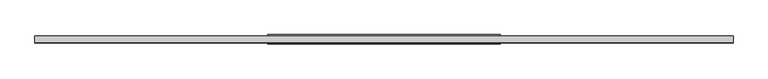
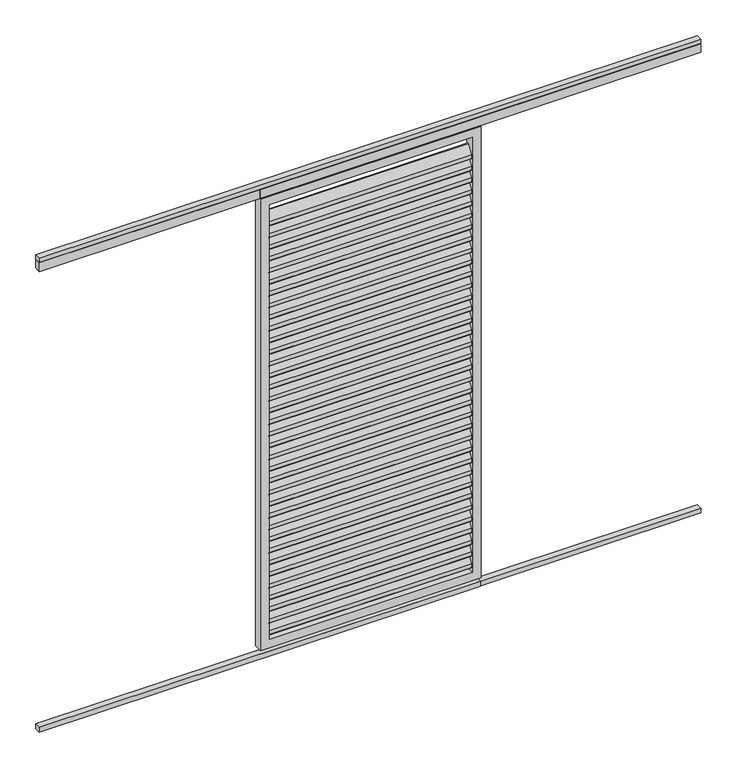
"""IFC4 building model written with IfcOpenShell, lengths in millimetres: proxy geometry, Renson_Algarve_Loggia_Paro_Privacy_Aluminium : Renson_Algarve_Loggia_Paro_Privacy_Aluminium."""

from ifc_helpers import new_model, si_unit, point, frame, frame_2d, origin, origin_with_axes, place, context, project, spatial, polyline, circle_curve, trimmed, segment, composite_curve, outline, extrude, source, transform, mapped, element, save


def generic_models_4c16ce6f(model_context):
    return source(origin(), model_context, "Body", "SweptSolid", [
        extrude(outline(composite_curve([segment(trimmed(circle_curve(frame_2d((12.6675921, 2117.7067127)), 3.0), [point((10.1515804, 2119.3406298))], [point((15.6675921, 2117.7067127))], False, "CARTESIAN"), True, "CONTINUOUS"), segment(polyline([(15.6675921, 2117.7067127), (15.6675921, 2099.3459282)]), True, "CONTINUOUS"), segment(trimmed(circle_curve(frame_2d((12.6675921, 2099.3459282)), 3.0), [point((15.6675921, 2099.3459282))], [point((15.1836038, 2097.7120111))], False, "CARTESIAN"), True, "CONTINUOUS"), segment(polyline([(15.1836038, 2097.7120111), (-8.8163962, 2060.7552519)]), True, "CONTINUOUS"), segment(trimmed(circle_curve(frame_2d((-11.3324079, 2062.389169)), 3.0), [point((-8.8163962, 2060.7552519))], [point((-14.3324079, 2062.389169))], False, "CARTESIAN"), True, "CONTINUOUS"), segment(polyline([(-14.3324079, 2062.389169), (-14.3324079, 2081.6385941), (10.1515804, 2119.3406298)]), True, "CONTINUOUS")], self_intersect=False)), frame((-460.0, 0.0, 0.0), z_axis=(1.0, 0.0, 0.0), x_axis=(0.0, 1.0, 0.0)), (0.0, 0.0, 1.0), 920.0),
        extrude(outline(composite_curve([segment(trimmed(circle_curve(frame_2d((12.6675921, 2061.7347145)), 3.0), [point((10.1515804, 2063.3686316))], [point((15.6675921, 2061.7347145))], False, "CARTESIAN"), True, "CONTINUOUS"), segment(polyline([(15.6675921, 2061.7347145), (15.6675921, 2043.3739299)]), True, "CONTINUOUS"), segment(trimmed(circle_curve(frame_2d((12.6675921, 2043.3739299)), 3.0), [point((15.6675921, 2043.3739299))], [point((15.1836038, 2041.7400128))], False, "CARTESIAN"), True, "CONTINUOUS"), segment(polyline([(15.1836038, 2041.7400128), (-8.8163962, 2004.7832537)]), True, "CONTINUOUS"), segment(trimmed(circle_curve(frame_2d((-11.3324079, 2006.4171708)), 3.0), [point((-8.8163962, 2004.7832537))], [point((-14.3324079, 2006.4171708))], False, "CARTESIAN"), True, "CONTINUOUS"), segment(polyline([(-14.3324079, 2006.4171708), (-14.3324079, 2025.6665958), (10.1515804, 2063.3686316)]), True, "CONTINUOUS")], self_intersect=False)), frame((-460.0, 0.0, 0.0), z_axis=(1.0, 0.0, 0.0), x_axis=(0.0, 1.0, 0.0)), (0.0, 0.0, 1.0), 920.0),
        extrude(outline(composite_curve([segment(trimmed(circle_curve(frame_2d((12.6675921, 2005.7627162)), 3.0), [point((10.1515804, 2007.3966333))], [point((15.6675921, 2005.7627162))], False, "CARTESIAN"), True, "CONTINUOUS"), segment(polyline([(15.6675921, 2005.7627162), (15.6675921, 1987.4019316)]), True, "CONTINUOUS"), segment(trimmed(circle_curve(frame_2d((12.6675921, 1987.4019316)), 3.0), [point((15.6675921, 1987.4019316))], [point((15.1836038, 1985.7680145))], False, "CARTESIAN"), True, "CONTINUOUS"), segment(polyline([(15.1836038, 1985.7680145), (-8.8163962, 1948.8112554)]), True, "CONTINUOUS"), segment(trimmed(circle_curve(frame_2d((-11.3324079, 1950.4451725)), 3.0), [point((-8.8163962, 1948.8112554))], [point((-14.3324079, 1950.4451725))], False, "CARTESIAN"), True, "CONTINUOUS"), segment(polyline([(-14.3324079, 1950.4451725), (-14.3324079, 1969.6945976), (10.1515804, 2007.3966333)]), True, "CONTINUOUS")], self_intersect=False)), frame((-460.0, 0.0, 0.0), z_axis=(1.0, 0.0, 0.0), x_axis=(0.0, 1.0, 0.0)), (0.0, 0.0, 1.0), 920.0),
        extrude(outline(composite_curve([segment(trimmed(circle_curve(frame_2d((12.6675921, 1949.790718)), 3.0), [point((10.1515804, 1951.4246351))], [point((15.6675921, 1949.790718))], False, "CARTESIAN"), True, "CONTINUOUS"), segment(polyline([(15.6675921, 1949.790718), (15.6675921, 1931.4299334)]), True, "CONTINUOUS"), segment(trimmed(circle_curve(frame_2d((12.6675921, 1931.4299334)), 3.0), [point((15.6675921, 1931.4299334))], [point((15.1836038, 1929.7960163))], False, "CARTESIAN"), True, "CONTINUOUS"), segment(polyline([(15.1836038, 1929.7960163), (-8.8163962, 1892.8392571)]), True, "CONTINUOUS"), segment(trimmed(circle_curve(frame_2d((-11.3324079, 1894.4731742)), 3.0), [point((-8.8163962, 1892.8392571))], [point((-14.3324079, 1894.4731742))], False, "CARTESIAN"), True, "CONTINUOUS"), segment(polyline([(-14.3324079, 1894.4731742), (-14.3324079, 1913.7225993), (10.1515804, 1951.4246351)]), True, "CONTINUOUS")], self_intersect=False)), frame((-460.0, 0.0, 0.0), z_axis=(1.0, 0.0, 0.0), x_axis=(0.0, 1.0, 0.0)), (0.0, 0.0, 1.0), 920.0),
        extrude(outline(composite_curve([segment(trimmed(circle_curve(frame_2d((12.6675921, 1893.8187197)), 3.0), [point((10.1515804, 1895.4526368))], [point((15.6675921, 1893.8187197))], False, "CARTESIAN"), True, "CONTINUOUS"), segment(polyline([(15.6675921, 1893.8187197), (15.6675921, 1875.4579351)]), True, "CONTINUOUS"), segment(trimmed(circle_curve(frame_2d((12.6675921, 1875.4579351)), 3.0), [point((15.6675921, 1875.4579351))], [point((15.1836038, 1873.824018))], False, "CARTESIAN"), True, "CONTINUOUS"), segment(polyline([(15.1836038, 1873.824018), (-8.8163962, 1836.8672589)]), True, "CONTINUOUS"), segment(trimmed(circle_curve(frame_2d((-11.3324079, 1838.501176)), 3.0), [point((-8.8163962, 1836.8672589))], [point((-14.3324079, 1838.501176))], False, "CARTESIAN"), True, "CONTINUOUS"), segment(polyline([(-14.3324079, 1838.501176), (-14.3324079, 1857.7506011), (10.1515804, 1895.4526368)]), True, "CONTINUOUS")], self_intersect=False)), frame((-460.0, 0.0, 0.0), z_axis=(1.0, 0.0, 0.0), x_axis=(0.0, 1.0, 0.0)), (0.0, 0.0, 1.0), 920.0),
        extrude(outline(composite_curve([segment(trimmed(circle_curve(frame_2d((12.6675921, 1837.8467214)), 3.0), [point((10.1515804, 1839.4806385))], [point((15.6675921, 1837.8467214))], False, "CARTESIAN"), True, "CONTINUOUS"), segment(polyline([(15.6675921, 1837.8467214), (15.6675921, 1819.4859368)]), True, "CONTINUOUS"), segment(trimmed(circle_curve(frame_2d((12.6675921, 1819.4859368)), 3.0), [point((15.6675921, 1819.4859368))], [point((15.1836038, 1817.8520197))], False, "CARTESIAN"), True, "CONTINUOUS"), segment(polyline([(15.1836038, 1817.8520197), (-8.8163962, 1780.8952606)]), True, "CONTINUOUS"), segment(trimmed(circle_curve(frame_2d((-11.3324079, 1782.5291777)), 3.0), [point((-8.8163962, 1780.8952606))], [point((-14.3324079, 1782.5291777))], False, "CARTESIAN"), True, "CONTINUOUS"), segment(polyline([(-14.3324079, 1782.5291777), (-14.3324079, 1801.7786028), (10.1515804, 1839.4806385)]), True, "CONTINUOUS")], self_intersect=False)), frame((-460.0, 0.0, 0.0), z_axis=(1.0, 0.0, 0.0), x_axis=(0.0, 1.0, 0.0)), (0.0, 0.0, 1.0), 920.0),
        extrude(outline(composite_curve([segment(trimmed(circle_curve(frame_2d((12.6675921, 1781.8747232)), 3.0), [point((10.1515804, 1783.5086403))], [point((15.6675921, 1781.8747232))], False, "CARTESIAN"), True, "CONTINUOUS"), segment(polyline([(15.6675921, 1781.8747232), (15.6675921, 1763.5139386)]), True, "CONTINUOUS"), segment(trimmed(circle_curve(frame_2d((12.6675921, 1763.5139386)), 3.0), [point((15.6675921, 1763.5139386))], [point((15.1836038, 1761.8800215))], False, "CARTESIAN"), True, "CONTINUOUS"), segment(polyline([(15.1836038, 1761.8800215), (-8.8163962, 1724.9232624)]), True, "CONTINUOUS"), segment(trimmed(circle_curve(frame_2d((-11.3324079, 1726.5571795)), 3.0), [point((-8.8163962, 1724.9232624))], [point((-14.3324079, 1726.5571795))], False, "CARTESIAN"), True, "CONTINUOUS"), segment(polyline([(-14.3324079, 1726.5571795), (-14.3324079, 1745.8066045), (10.1515804, 1783.5086403)]), True, "CONTINUOUS")], self_intersect=False)), frame((-460.0, 0.0, 0.0), z_axis=(1.0, 0.0, 0.0), x_axis=(0.0, 1.0, 0.0)), (0.0, 0.0, 1.0), 920.0),
        extrude(outline(composite_curve([segment(trimmed(circle_curve(frame_2d((12.6675921, 1725.9027249)), 3.0), [point((10.1515804, 1727.536642))], [point((15.6675921, 1725.9027249))], False, "CARTESIAN"), True, "CONTINUOUS"), segment(polyline([(15.6675921, 1725.9027249), (15.6675921, 1707.5419403)]), True, "CONTINUOUS"), segment(trimmed(circle_curve(frame_2d((12.6675921, 1707.5419403)), 3.0), [point((15.6675921, 1707.5419403))], [point((15.1836038, 1705.9080232))], False, "CARTESIAN"), True, "CONTINUOUS"), segment(polyline([(15.1836038, 1705.9080232), (-8.8163962, 1668.9512641)]), True, "CONTINUOUS"), segment(trimmed(circle_curve(frame_2d((-11.3324079, 1670.5851812)), 3.0), [point((-8.8163962, 1668.9512641))], [point((-14.3324079, 1670.5851812))], False, "CARTESIAN"), True, "CONTINUOUS"), segment(polyline([(-14.3324079, 1670.5851812), (-14.3324079, 1689.8346063), (10.1515804, 1727.536642)]), True, "CONTINUOUS")], self_intersect=False)), frame((-460.0, 0.0, 0.0), z_axis=(1.0, 0.0, 0.0), x_axis=(0.0, 1.0, 0.0)), (0.0, 0.0, 1.0), 920.0),
        extrude(outline(composite_curve([segment(trimmed(circle_curve(frame_2d((12.6675921, 1669.9307267)), 3.0), [point((10.1515804, 1671.5646438))], [point((15.6675921, 1669.9307267))], False, "CARTESIAN"), True, "CONTINUOUS"), segment(polyline([(15.6675921, 1669.9307267), (15.6675921, 1651.5699421)]), True, "CONTINUOUS"), segment(trimmed(circle_curve(frame_2d((12.6675921, 1651.5699421)), 3.0), [point((15.6675921, 1651.5699421))], [point((15.1836038, 1649.936025))], False, "CARTESIAN"), True, "CONTINUOUS"), segment(polyline([(15.1836038, 1649.936025), (-8.8163962, 1612.9792658)]), True, "CONTINUOUS"), segment(trimmed(circle_curve(frame_2d((-11.3324079, 1614.6131829)), 3.0), [point((-8.8163962, 1612.9792658))], [point((-14.3324079, 1614.6131829))], False, "CARTESIAN"), True, "CONTINUOUS"), segment(polyline([(-14.3324079, 1614.6131829), (-14.3324079, 1633.862608), (10.1515804, 1671.5646438)]), True, "CONTINUOUS")], self_intersect=False)), frame((-460.0, 0.0, 0.0), z_axis=(1.0, 0.0, 0.0), x_axis=(0.0, 1.0, 0.0)), (0.0, 0.0, 1.0), 920.0),
        extrude(outline(composite_curve([segment(trimmed(circle_curve(frame_2d((12.6675921, 1613.9587284)), 3.0), [point((10.1515804, 1615.5926455))], [point((15.6675921, 1613.9587284))], False, "CARTESIAN"), True, "CONTINUOUS"), segment(polyline([(15.6675921, 1613.9587284), (15.6675921, 1595.5979438)]), True, "CONTINUOUS"), segment(trimmed(circle_curve(frame_2d((12.6675921, 1595.5979438)), 3.0), [point((15.6675921, 1595.5979438))], [point((15.1836038, 1593.9640267))], False, "CARTESIAN"), True, "CONTINUOUS"), segment(polyline([(15.1836038, 1593.9640267), (-8.8163962, 1557.0072676)]), True, "CONTINUOUS"), segment(trimmed(circle_curve(frame_2d((-11.3324079, 1558.6411847)), 3.0), [point((-8.8163962, 1557.0072676))], [point((-14.3324079, 1558.6411847))], False, "CARTESIAN"), True, "CONTINUOUS"), segment(polyline([(-14.3324079, 1558.6411847), (-14.3324079, 1577.8906097), (10.1515804, 1615.5926455)]), True, "CONTINUOUS")], self_intersect=False)), frame((-460.0, 0.0, 0.0), z_axis=(1.0, 0.0, 0.0), x_axis=(0.0, 1.0, 0.0)), (0.0, 0.0, 1.0), 920.0),
        extrude(outline(composite_curve([segment(trimmed(circle_curve(frame_2d((12.6675921, 1557.9867301)), 3.0), [point((10.1515804, 1559.6206472))], [point((15.6675921, 1557.9867301))], False, "CARTESIAN"), True, "CONTINUOUS"), segment(polyline([(15.6675921, 1557.9867301), (15.6675921, 1539.6259455)]), True, "CONTINUOUS"), segment(trimmed(circle_curve(frame_2d((12.6675921, 1539.6259455)), 3.0), [point((15.6675921, 1539.6259455))], [point((15.1836038, 1537.9920284))], False, "CARTESIAN"), True, "CONTINUOUS"), segment(polyline([(15.1836038, 1537.9920284), (-8.8163962, 1501.0352693)]), True, "CONTINUOUS"), segment(trimmed(circle_curve(frame_2d((-11.3324079, 1502.6691864)), 3.0), [point((-8.8163962, 1501.0352693))], [point((-14.3324079, 1502.6691864))], False, "CARTESIAN"), True, "CONTINUOUS"), segment(polyline([(-14.3324079, 1502.6691864), (-14.3324079, 1521.9186115), (10.1515804, 1559.6206472)]), True, "CONTINUOUS")], self_intersect=False)), frame((-460.0, 0.0, 0.0), z_axis=(1.0, 0.0, 0.0), x_axis=(0.0, 1.0, 0.0)), (0.0, 0.0, 1.0), 920.0),
        extrude(outline(composite_curve([segment(trimmed(circle_curve(frame_2d((12.6675921, 1502.0147319)), 3.0), [point((10.1515804, 1503.648649))], [point((15.6675921, 1502.0147319))], False, "CARTESIAN"), True, "CONTINUOUS"), segment(polyline([(15.6675921, 1502.0147319), (15.6675921, 1483.6539473)]), True, "CONTINUOUS"), segment(trimmed(circle_curve(frame_2d((12.6675921, 1483.6539473)), 3.0), [point((15.6675921, 1483.6539473))], [point((15.1836038, 1482.0200302))], False, "CARTESIAN"), True, "CONTINUOUS"), segment(polyline([(15.1836038, 1482.0200302), (-8.8163962, 1445.063271)]), True, "CONTINUOUS"), segment(trimmed(circle_curve(frame_2d((-11.3324079, 1446.6971881)), 3.0), [point((-8.8163962, 1445.063271))], [point((-14.3324079, 1446.6971881))], False, "CARTESIAN"), True, "CONTINUOUS"), segment(polyline([(-14.3324079, 1446.6971881), (-14.3324079, 1465.9466132), (10.1515804, 1503.648649)]), True, "CONTINUOUS")], self_intersect=False)), frame((-460.0, 0.0, 0.0), z_axis=(1.0, 0.0, 0.0), x_axis=(0.0, 1.0, 0.0)), (0.0, 0.0, 1.0), 920.0),
        extrude(outline(composite_curve([segment(trimmed(circle_curve(frame_2d((12.6675921, 1446.0427336)), 3.0), [point((10.1515804, 1447.6766507))], [point((15.6675921, 1446.0427336))], False, "CARTESIAN"), True, "CONTINUOUS"), segment(polyline([(15.6675921, 1446.0427336), (15.6675921, 1427.681949)]), True, "CONTINUOUS"), segment(trimmed(circle_curve(frame_2d((12.6675921, 1427.681949)), 3.0), [point((15.6675921, 1427.681949))], [point((15.1836038, 1426.0480319))], False, "CARTESIAN"), True, "CONTINUOUS"), segment(polyline([(15.1836038, 1426.0480319), (-8.8163962, 1389.0912728)]), True, "CONTINUOUS"), segment(trimmed(circle_curve(frame_2d((-11.3324079, 1390.7251899)), 3.0), [point((-8.8163962, 1389.0912728))], [point((-14.3324079, 1390.7251899))], False, "CARTESIAN"), True, "CONTINUOUS"), segment(polyline([(-14.3324079, 1390.7251899), (-14.3324079, 1409.974615), (10.1515804, 1447.6766507)]), True, "CONTINUOUS")], self_intersect=False)), frame((-460.0, 0.0, 0.0), z_axis=(1.0, 0.0, 0.0), x_axis=(0.0, 1.0, 0.0)), (0.0, 0.0, 1.0), 920.0),
        extrude(outline(composite_curve([segment(trimmed(circle_curve(frame_2d((12.6675921, 1390.0707353)), 3.0), [point((10.1515804, 1391.7046525))], [point((15.6675921, 1390.0707353))], False, "CARTESIAN"), True, "CONTINUOUS"), segment(polyline([(15.6675921, 1390.0707353), (15.6675921, 1371.7099508)]), True, "CONTINUOUS"), segment(trimmed(circle_curve(frame_2d((12.6675921, 1371.7099508)), 3.0), [point((15.6675921, 1371.7099508))], [point((15.1836038, 1370.0760337))], False, "CARTESIAN"), True, "CONTINUOUS"), segment(polyline([(15.1836038, 1370.0760337), (-8.8163962, 1333.1192745)]), True, "CONTINUOUS"), segment(trimmed(circle_curve(frame_2d((-11.3324079, 1334.7531916)), 3.0), [point((-8.8163962, 1333.1192745))], [point((-14.3324079, 1334.7531916))], False, "CARTESIAN"), True, "CONTINUOUS"), segment(polyline([(-14.3324079, 1334.7531916), (-14.3324079, 1354.0026167), (10.1515804, 1391.7046525)]), True, "CONTINUOUS")], self_intersect=False)), frame((-460.0, 0.0, 0.0), z_axis=(1.0, 0.0, 0.0), x_axis=(0.0, 1.0, 0.0)), (0.0, 0.0, 1.0), 920.0),
        extrude(outline(composite_curve([segment(trimmed(circle_curve(frame_2d((12.6675921, 1334.0987371)), 3.0), [point((10.1515804, 1335.7326542))], [point((15.6675921, 1334.0987371))], False, "CARTESIAN"), True, "CONTINUOUS"), segment(polyline([(15.6675921, 1334.0987371), (15.6675921, 1315.7379525)]), True, "CONTINUOUS"), segment(trimmed(circle_curve(frame_2d((12.6675921, 1315.7379525)), 3.0), [point((15.6675921, 1315.7379525))], [point((15.1836038, 1314.1040354))], False, "CARTESIAN"), True, "CONTINUOUS"), segment(polyline([(15.1836038, 1314.1040354), (-8.8163962, 1277.1472763)]), True, "CONTINUOUS"), segment(trimmed(circle_curve(frame_2d((-11.3324079, 1278.7811934)), 3.0), [point((-8.8163962, 1277.1472763))], [point((-14.3324079, 1278.7811934))], False, "CARTESIAN"), True, "CONTINUOUS"), segment(polyline([(-14.3324079, 1278.7811934), (-14.3324079, 1298.0306184), (10.1515804, 1335.7326542)]), True, "CONTINUOUS")], self_intersect=False)), frame((-460.0, 0.0, 0.0), z_axis=(1.0, 0.0, 0.0), x_axis=(0.0, 1.0, 0.0)), (0.0, 0.0, 1.0), 920.0),
        extrude(outline(composite_curve([segment(trimmed(circle_curve(frame_2d((12.6675921, 1278.1267388)), 3.0), [point((10.1515804, 1279.7606559))], [point((15.6675921, 1278.1267388))], False, "CARTESIAN"), True, "CONTINUOUS"), segment(polyline([(15.6675921, 1278.1267388), (15.6675921, 1259.7659542)]), True, "CONTINUOUS"), segment(trimmed(circle_curve(frame_2d((12.6675921, 1259.7659542)), 3.0), [point((15.6675921, 1259.7659542))], [point((15.1836038, 1258.1320371))], False, "CARTESIAN"), True, "CONTINUOUS"), segment(polyline([(15.1836038, 1258.1320371), (-8.8163962, 1221.175278)]), True, "CONTINUOUS"), segment(trimmed(circle_curve(frame_2d((-11.3324079, 1222.8091951)), 3.0), [point((-8.8163962, 1221.175278))], [point((-14.3324079, 1222.8091951))], False, "CARTESIAN"), True, "CONTINUOUS"), segment(polyline([(-14.3324079, 1222.8091951), (-14.3324079, 1242.0586202), (10.1515804, 1279.7606559)]), True, "CONTINUOUS")], self_intersect=False)), frame((-460.0, 0.0, 0.0), z_axis=(1.0, 0.0, 0.0), x_axis=(0.0, 1.0, 0.0)), (0.0, 0.0, 1.0), 920.0),
        extrude(outline(composite_curve([segment(trimmed(circle_curve(frame_2d((12.6675921, 1222.1547406)), 3.0), [point((10.1515804, 1223.7886577))], [point((15.6675921, 1222.1547406))], False, "CARTESIAN"), True, "CONTINUOUS"), segment(polyline([(15.6675921, 1222.1547406), (15.6675921, 1203.793956)]), True, "CONTINUOUS"), segment(trimmed(circle_curve(frame_2d((12.6675921, 1203.793956)), 3.0), [point((15.6675921, 1203.793956))], [point((15.1836038, 1202.1600389))], False, "CARTESIAN"), True, "CONTINUOUS"), segment(polyline([(15.1836038, 1202.1600389), (-8.8163962, 1165.2032797)]), True, "CONTINUOUS"), segment(trimmed(circle_curve(frame_2d((-11.3324079, 1166.8371968)), 3.0), [point((-8.8163962, 1165.2032797))], [point((-14.3324079, 1166.8371968))], False, "CARTESIAN"), True, "CONTINUOUS"), segment(polyline([(-14.3324079, 1166.8371968), (-14.3324079, 1186.0866219), (10.1515804, 1223.7886577)]), True, "CONTINUOUS")], self_intersect=False)), frame((-460.0, 0.0, 0.0), z_axis=(1.0, 0.0, 0.0), x_axis=(0.0, 1.0, 0.0)), (0.0, 0.0, 1.0), 920.0),
        extrude(outline(composite_curve([segment(trimmed(circle_curve(frame_2d((12.6675921, 1166.1827423)), 3.0), [point((10.1515804, 1167.8166594))], [point((15.6675921, 1166.1827423))], False, "CARTESIAN"), True, "CONTINUOUS"), segment(polyline([(15.6675921, 1166.1827423), (15.6675921, 1147.8219577)]), True, "CONTINUOUS"), segment(trimmed(circle_curve(frame_2d((12.6675921, 1147.8219577)), 3.0), [point((15.6675921, 1147.8219577))], [point((15.1836038, 1146.1880406))], False, "CARTESIAN"), True, "CONTINUOUS"), segment(polyline([(15.1836038, 1146.1880406), (-8.8163962, 1109.2312815)]), True, "CONTINUOUS"), segment(trimmed(circle_curve(frame_2d((-11.3324079, 1110.8651986)), 3.0), [point((-8.8163962, 1109.2312815))], [point((-14.3324079, 1110.8651986))], False, "CARTESIAN"), True, "CONTINUOUS"), segment(polyline([(-14.3324079, 1110.8651986), (-14.3324079, 1130.1146237), (10.1515804, 1167.8166594)]), True, "CONTINUOUS")], self_intersect=False)), frame((-460.0, 0.0, 0.0), z_axis=(1.0, 0.0, 0.0), x_axis=(0.0, 1.0, 0.0)), (0.0, 0.0, 1.0), 920.0),
        extrude(outline(composite_curve([segment(trimmed(circle_curve(frame_2d((12.6675921, 1110.210744)), 3.0), [point((10.1515804, 1111.8446611))], [point((15.6675921, 1110.210744))], False, "CARTESIAN"), True, "CONTINUOUS"), segment(polyline([(15.6675921, 1110.210744), (15.6675921, 1091.8499595)]), True, "CONTINUOUS"), segment(trimmed(circle_curve(frame_2d((12.6675921, 1091.8499595)), 3.0), [point((15.6675921, 1091.8499595))], [point((15.1836038, 1090.2160423))], False, "CARTESIAN"), True, "CONTINUOUS"), segment(polyline([(15.1836038, 1090.2160423), (-8.8163962, 1053.2592832)]), True, "CONTINUOUS"), segment(trimmed(circle_curve(frame_2d((-11.3324079, 1054.8932003)), 3.0), [point((-8.8163962, 1053.2592832))], [point((-14.3324079, 1054.8932003))], False, "CARTESIAN"), True, "CONTINUOUS"), segment(polyline([(-14.3324079, 1054.8932003), (-14.3324079, 1074.1426254), (10.1515804, 1111.8446611)]), True, "CONTINUOUS")], self_intersect=False)), frame((-460.0, 0.0, 0.0), z_axis=(1.0, 0.0, 0.0), x_axis=(0.0, 1.0, 0.0)), (0.0, 0.0, 1.0), 920.0),
        extrude(outline(composite_curve([segment(trimmed(circle_curve(frame_2d((12.6675921, 1054.2387458)), 3.0), [point((10.1515804, 1055.8726629))], [point((15.6675921, 1054.2387458))], False, "CARTESIAN"), True, "CONTINUOUS"), segment(polyline([(15.6675921, 1054.2387458), (15.6675921, 1035.8779612)]), True, "CONTINUOUS"), segment(trimmed(circle_curve(frame_2d((12.6675921, 1035.8779612)), 3.0), [point((15.6675921, 1035.8779612))], [point((15.1836038, 1034.2440441))], False, "CARTESIAN"), True, "CONTINUOUS"), segment(polyline([(15.1836038, 1034.2440441), (-8.8163962, 997.287285)]), True, "CONTINUOUS"), segment(trimmed(circle_curve(frame_2d((-11.3324079, 998.9212021)), 3.0), [point((-8.8163962, 997.287285))], [point((-14.3324079, 998.9212021))], False, "CARTESIAN"), True, "CONTINUOUS"), segment(polyline([(-14.3324079, 998.9212021), (-14.3324079, 1018.1706271), (10.1515804, 1055.8726629)]), True, "CONTINUOUS")], self_intersect=False)), frame((-460.0, 0.0, 0.0), z_axis=(1.0, 0.0, 0.0), x_axis=(0.0, 1.0, 0.0)), (0.0, 0.0, 1.0), 920.0),
        extrude(outline(composite_curve([segment(trimmed(circle_curve(frame_2d((12.6675921, 998.2667475)), 3.0), [point((10.1515804, 999.9006646))], [point((15.6675921, 998.2667475))], False, "CARTESIAN"), True, "CONTINUOUS"), segment(polyline([(15.6675921, 998.2667475), (15.6675921, 979.9059629)]), True, "CONTINUOUS"), segment(trimmed(circle_curve(frame_2d((12.6675921, 979.9059629)), 3.0), [point((15.6675921, 979.9059629))], [point((15.1836038, 978.2720458))], False, "CARTESIAN"), True, "CONTINUOUS"), segment(polyline([(15.1836038, 978.2720458), (-8.8163962, 941.3152867)]), True, "CONTINUOUS"), segment(trimmed(circle_curve(frame_2d((-11.3324079, 942.9492038)), 3.0), [point((-8.8163962, 941.3152867))], [point((-14.3324079, 942.9492038))], False, "CARTESIAN"), True, "CONTINUOUS"), segment(polyline([(-14.3324079, 942.9492038), (-14.3324079, 962.1986289), (10.1515804, 999.9006646)]), True, "CONTINUOUS")], self_intersect=False)), frame((-460.0, 0.0, 0.0), z_axis=(1.0, 0.0, 0.0), x_axis=(0.0, 1.0, 0.0)), (0.0, 0.0, 1.0), 920.0),
        extrude(outline(composite_curve([segment(trimmed(circle_curve(frame_2d((12.6675921, 942.2947493)), 3.0), [point((10.1515804, 943.9286664))], [point((15.6675921, 942.2947493))], False, "CARTESIAN"), True, "CONTINUOUS"), segment(polyline([(15.6675921, 942.2947493), (15.6675921, 923.9339647)]), True, "CONTINUOUS"), segment(trimmed(circle_curve(frame_2d((12.6675921, 923.9339647)), 3.0), [point((15.6675921, 923.9339647))], [point((15.1836038, 922.3000476))], False, "CARTESIAN"), True, "CONTINUOUS"), segment(polyline([(15.1836038, 922.3000476), (-8.8163962, 885.3432884)]), True, "CONTINUOUS"), segment(trimmed(circle_curve(frame_2d((-11.3324079, 886.9772055)), 3.0), [point((-8.8163962, 885.3432884))], [point((-14.3324079, 886.9772055))], False, "CARTESIAN"), True, "CONTINUOUS"), segment(polyline([(-14.3324079, 886.9772055), (-14.3324079, 906.2266306), (10.1515804, 943.9286664)]), True, "CONTINUOUS")], self_intersect=False)), frame((-460.0, 0.0, 0.0), z_axis=(1.0, 0.0, 0.0), x_axis=(0.0, 1.0, 0.0)), (0.0, 0.0, 1.0), 920.0),
        extrude(outline(composite_curve([segment(trimmed(circle_curve(frame_2d((12.6675921, 886.322751)), 3.0), [point((10.1515804, 887.9566681))], [point((15.6675921, 886.322751))], False, "CARTESIAN"), True, "CONTINUOUS"), segment(polyline([(15.6675921, 886.322751), (15.6675921, 867.9619664)]), True, "CONTINUOUS"), segment(trimmed(circle_curve(frame_2d((12.6675921, 867.9619664)), 3.0), [point((15.6675921, 867.9619664))], [point((15.1836038, 866.3280493))], False, "CARTESIAN"), True, "CONTINUOUS"), segment(polyline([(15.1836038, 866.3280493), (-8.8163962, 829.3712902)]), True, "CONTINUOUS"), segment(trimmed(circle_curve(frame_2d((-11.3324079, 831.0052073)), 3.0), [point((-8.8163962, 829.3712902))], [point((-14.3324079, 831.0052073))], False, "CARTESIAN"), True, "CONTINUOUS"), segment(polyline([(-14.3324079, 831.0052073), (-14.3324079, 850.2546323), (10.1515804, 887.9566681)]), True, "CONTINUOUS")], self_intersect=False)), frame((-460.0, 0.0, 0.0), z_axis=(1.0, 0.0, 0.0), x_axis=(0.0, 1.0, 0.0)), (0.0, 0.0, 1.0), 920.0),
        extrude(outline(composite_curve([segment(trimmed(circle_curve(frame_2d((12.6675921, 830.3507527)), 3.0), [point((10.1515804, 831.9846698))], [point((15.6675921, 830.3507527))], False, "CARTESIAN"), True, "CONTINUOUS"), segment(polyline([(15.6675921, 830.3507527), (15.6675921, 811.9899681)]), True, "CONTINUOUS"), segment(trimmed(circle_curve(frame_2d((12.6675921, 811.9899681)), 3.0), [point((15.6675921, 811.9899681))], [point((15.1836038, 810.356051))], False, "CARTESIAN"), True, "CONTINUOUS"), segment(polyline([(15.1836038, 810.356051), (-8.8163962, 773.3992919)]), True, "CONTINUOUS"), segment(trimmed(circle_curve(frame_2d((-11.3324079, 775.033209)), 3.0), [point((-8.8163962, 773.3992919))], [point((-14.3324079, 775.033209))], False, "CARTESIAN"), True, "CONTINUOUS"), segment(polyline([(-14.3324079, 775.033209), (-14.3324079, 794.2826341), (10.1515804, 831.9846698)]), True, "CONTINUOUS")], self_intersect=False)), frame((-460.0, 0.0, 0.0), z_axis=(1.0, 0.0, 0.0), x_axis=(0.0, 1.0, 0.0)), (0.0, 0.0, 1.0), 920.0),
        extrude(outline(composite_curve([segment(trimmed(circle_curve(frame_2d((12.6675921, 774.3787545)), 3.0), [point((10.1515804, 776.0126716))], [point((15.6675921, 774.3787545))], False, "CARTESIAN"), True, "CONTINUOUS"), segment(polyline([(15.6675921, 774.3787545), (15.6675921, 756.0179699)]), True, "CONTINUOUS"), segment(trimmed(circle_curve(frame_2d((12.6675921, 756.0179699)), 3.0), [point((15.6675921, 756.0179699))], [point((15.1836038, 754.3840528))], False, "CARTESIAN"), True, "CONTINUOUS"), segment(polyline([(15.1836038, 754.3840528), (-8.8163962, 717.4272936)]), True, "CONTINUOUS"), segment(trimmed(circle_curve(frame_2d((-11.3324079, 719.0612108)), 3.0), [point((-8.8163962, 717.4272936))], [point((-14.3324079, 719.0612108))], False, "CARTESIAN"), True, "CONTINUOUS"), segment(polyline([(-14.3324079, 719.0612108), (-14.3324079, 738.3106358), (10.1515804, 776.0126716)]), True, "CONTINUOUS")], self_intersect=False)), frame((-460.0, 0.0, 0.0), z_axis=(1.0, 0.0, 0.0), x_axis=(0.0, 1.0, 0.0)), (0.0, 0.0, 1.0), 920.0),
        extrude(outline(composite_curve([segment(trimmed(circle_curve(frame_2d((12.6675921, 718.4067562)), 3.0), [point((10.1515804, 720.0406733))], [point((15.6675921, 718.4067562))], False, "CARTESIAN"), True, "CONTINUOUS"), segment(polyline([(15.6675921, 718.4067562), (15.6675921, 700.0459716)]), True, "CONTINUOUS"), segment(trimmed(circle_curve(frame_2d((12.6675921, 700.0459716)), 3.0), [point((15.6675921, 700.0459716))], [point((15.1836038, 698.4120545))], False, "CARTESIAN"), True, "CONTINUOUS"), segment(polyline([(15.1836038, 698.4120545), (-8.8163962, 661.4552954)]), True, "CONTINUOUS"), segment(trimmed(circle_curve(frame_2d((-11.3324079, 663.0892125)), 3.0), [point((-8.8163962, 661.4552954))], [point((-14.3324079, 663.0892125))], False, "CARTESIAN"), True, "CONTINUOUS"), segment(polyline([(-14.3324079, 663.0892125), (-14.3324079, 682.3386376), (10.1515804, 720.0406733)]), True, "CONTINUOUS")], self_intersect=False)), frame((-460.0, 0.0, 0.0), z_axis=(1.0, 0.0, 0.0), x_axis=(0.0, 1.0, 0.0)), (0.0, 0.0, 1.0), 920.0),
        extrude(outline(composite_curve([segment(trimmed(circle_curve(frame_2d((12.6675921, 662.4347579)), 3.0), [point((10.1515804, 664.0686751))], [point((15.6675921, 662.4347579))], False, "CARTESIAN"), True, "CONTINUOUS"), segment(polyline([(15.6675921, 662.4347579), (15.6675921, 644.0739734)]), True, "CONTINUOUS"), segment(trimmed(circle_curve(frame_2d((12.6675921, 644.0739734)), 3.0), [point((15.6675921, 644.0739734))], [point((15.1836038, 642.4400563))], False, "CARTESIAN"), True, "CONTINUOUS"), segment(polyline([(15.1836038, 642.4400563), (-8.8163962, 605.4832971)]), True, "CONTINUOUS"), segment(trimmed(circle_curve(frame_2d((-11.3324079, 607.1172142)), 3.0), [point((-8.8163962, 605.4832971))], [point((-14.3324079, 607.1172142))], False, "CARTESIAN"), True, "CONTINUOUS"), segment(polyline([(-14.3324079, 607.1172142), (-14.3324079, 626.3666393), (10.1515804, 664.0686751)]), True, "CONTINUOUS")], self_intersect=False)), frame((-460.0, 0.0, 0.0), z_axis=(1.0, 0.0, 0.0), x_axis=(0.0, 1.0, 0.0)), (0.0, 0.0, 1.0), 920.0),
        extrude(outline(composite_curve([segment(trimmed(circle_curve(frame_2d((12.6675921, 606.4627597)), 3.0), [point((10.1515804, 608.0966768))], [point((15.6675921, 606.4627597))], False, "CARTESIAN"), True, "CONTINUOUS"), segment(polyline([(15.6675921, 606.4627597), (15.6675921, 588.1019751)]), True, "CONTINUOUS"), segment(trimmed(circle_curve(frame_2d((12.6675921, 588.1019751)), 3.0), [point((15.6675921, 588.1019751))], [point((15.1836038, 586.468058))], False, "CARTESIAN"), True, "CONTINUOUS"), segment(polyline([(15.1836038, 586.468058), (-8.8163962, 549.5112989)]), True, "CONTINUOUS"), segment(trimmed(circle_curve(frame_2d((-11.3324079, 551.145216)), 3.0), [point((-8.8163962, 549.5112989))], [point((-14.3324079, 551.145216))], False, "CARTESIAN"), True, "CONTINUOUS"), segment(polyline([(-14.3324079, 551.145216), (-14.3324079, 570.394641), (10.1515804, 608.0966768)]), True, "CONTINUOUS")], self_intersect=False)), frame((-460.0, 0.0, 0.0), z_axis=(1.0, 0.0, 0.0), x_axis=(0.0, 1.0, 0.0)), (0.0, 0.0, 1.0), 920.0),
        extrude(outline(composite_curve([segment(trimmed(circle_curve(frame_2d((12.6675921, 550.4907614)), 3.0), [point((10.1515804, 552.1246785))], [point((15.6675921, 550.4907614))], False, "CARTESIAN"), True, "CONTINUOUS"), segment(polyline([(15.6675921, 550.4907614), (15.6675921, 532.1299768)]), True, "CONTINUOUS"), segment(trimmed(circle_curve(frame_2d((12.6675921, 532.1299768)), 3.0), [point((15.6675921, 532.1299768))], [point((15.1836038, 530.4960597))], False, "CARTESIAN"), True, "CONTINUOUS"), segment(polyline([(15.1836038, 530.4960597), (-8.8163962, 493.5393006)]), True, "CONTINUOUS"), segment(trimmed(circle_curve(frame_2d((-11.3324079, 495.1732177)), 3.0), [point((-8.8163962, 493.5393006))], [point((-14.3324079, 495.1732177))], False, "CARTESIAN"), True, "CONTINUOUS"), segment(polyline([(-14.3324079, 495.1732177), (-14.3324079, 514.4226428), (10.1515804, 552.1246785)]), True, "CONTINUOUS")], self_intersect=False)), frame((-460.0, 0.0, 0.0), z_axis=(1.0, 0.0, 0.0), x_axis=(0.0, 1.0, 0.0)), (0.0, 0.0, 1.0), 920.0),
        extrude(outline(composite_curve([segment(trimmed(circle_curve(frame_2d((12.6675921, 494.5187632)), 3.0), [point((10.1515804, 496.1526803))], [point((15.6675921, 494.5187632))], False, "CARTESIAN"), True, "CONTINUOUS"), segment(polyline([(15.6675921, 494.5187632), (15.6675921, 476.1579786)]), True, "CONTINUOUS"), segment(trimmed(circle_curve(frame_2d((12.6675921, 476.1579786)), 3.0), [point((15.6675921, 476.1579786))], [point((15.1836038, 474.5240615))], False, "CARTESIAN"), True, "CONTINUOUS"), segment(polyline([(15.1836038, 474.5240615), (-8.8163962, 437.5673023)]), True, "CONTINUOUS"), segment(trimmed(circle_curve(frame_2d((-11.3324079, 439.2012194)), 3.0), [point((-8.8163962, 437.5673023))], [point((-14.3324079, 439.2012194))], False, "CARTESIAN"), True, "CONTINUOUS"), segment(polyline([(-14.3324079, 439.2012194), (-14.3324079, 458.4506445), (10.1515804, 496.1526803)]), True, "CONTINUOUS")], self_intersect=False)), frame((-460.0, 0.0, 0.0), z_axis=(1.0, 0.0, 0.0), x_axis=(0.0, 1.0, 0.0)), (0.0, 0.0, 1.0), 920.0),
        extrude(outline(composite_curve([segment(trimmed(circle_curve(frame_2d((12.6675921, 438.5467649)), 3.0), [point((10.1515804, 440.180682))], [point((15.6675921, 438.5467649))], False, "CARTESIAN"), True, "CONTINUOUS"), segment(polyline([(15.6675921, 438.5467649), (15.6675921, 420.1859803)]), True, "CONTINUOUS"), segment(trimmed(circle_curve(frame_2d((12.6675921, 420.1859803)), 3.0), [point((15.6675921, 420.1859803))], [point((15.1836038, 418.5520632))], False, "CARTESIAN"), True, "CONTINUOUS"), segment(polyline([(15.1836038, 418.5520632), (-8.8163962, 381.5953041)]), True, "CONTINUOUS"), segment(trimmed(circle_curve(frame_2d((-11.3324079, 383.2292212)), 3.0), [point((-8.8163962, 381.5953041))], [point((-14.3324079, 383.2292212))], False, "CARTESIAN"), True, "CONTINUOUS"), segment(polyline([(-14.3324079, 383.2292212), (-14.3324079, 402.4786463), (10.1515804, 440.180682)]), True, "CONTINUOUS")], self_intersect=False)), frame((-460.0, 0.0, 0.0), z_axis=(1.0, 0.0, 0.0), x_axis=(0.0, 1.0, 0.0)), (0.0, 0.0, 1.0), 920.0),
        extrude(outline(composite_curve([segment(trimmed(circle_curve(frame_2d((12.6675921, 382.5747666)), 3.0), [point((10.1515804, 384.2086837))], [point((15.6675921, 382.5747666))], False, "CARTESIAN"), True, "CONTINUOUS"), segment(polyline([(15.6675921, 382.5747666), (15.6675921, 364.2139821)]), True, "CONTINUOUS"), segment(trimmed(circle_curve(frame_2d((12.6675921, 364.2139821)), 3.0), [point((15.6675921, 364.2139821))], [point((15.1836038, 362.580065))], False, "CARTESIAN"), True, "CONTINUOUS"), segment(polyline([(15.1836038, 362.580065), (-8.8163962, 325.6233058)]), True, "CONTINUOUS"), segment(trimmed(circle_curve(frame_2d((-11.3324079, 327.2572229)), 3.0), [point((-8.8163962, 325.6233058))], [point((-14.3324079, 327.2572229))], False, "CARTESIAN"), True, "CONTINUOUS"), segment(polyline([(-14.3324079, 327.2572229), (-14.3324079, 346.506648), (10.1515804, 384.2086837)]), True, "CONTINUOUS")], self_intersect=False)), frame((-460.0, 0.0, 0.0), z_axis=(1.0, 0.0, 0.0), x_axis=(0.0, 1.0, 0.0)), (0.0, 0.0, 1.0), 920.0),
        extrude(outline(composite_curve([segment(trimmed(circle_curve(frame_2d((12.6675921, 326.6027684)), 3.0), [point((10.1515804, 328.2366855))], [point((15.6675921, 326.6027684))], False, "CARTESIAN"), True, "CONTINUOUS"), segment(polyline([(15.6675921, 326.6027684), (15.6675921, 308.2419838)]), True, "CONTINUOUS"), segment(trimmed(circle_curve(frame_2d((12.6675921, 308.2419838)), 3.0), [point((15.6675921, 308.2419838))], [point((15.1836038, 306.6080667))], False, "CARTESIAN"), True, "CONTINUOUS"), segment(polyline([(15.1836038, 306.6080667), (-8.8163962, 269.6513076)]), True, "CONTINUOUS"), segment(trimmed(circle_curve(frame_2d((-11.3324079, 271.2852247)), 3.0), [point((-8.8163962, 269.6513076))], [point((-14.3324079, 271.2852247))], False, "CARTESIAN"), True, "CONTINUOUS"), segment(polyline([(-14.3324079, 271.2852247), (-14.3324079, 290.5346497), (10.1515804, 328.2366855)]), True, "CONTINUOUS")], self_intersect=False)), frame((-460.0, 0.0, 0.0), z_axis=(1.0, 0.0, 0.0), x_axis=(0.0, 1.0, 0.0)), (0.0, 0.0, 1.0), 920.0),
        extrude(outline(composite_curve([segment(trimmed(circle_curve(frame_2d((12.6675921, 270.6307701)), 3.0), [point((10.1515804, 272.2646872))], [point((15.6675921, 270.6307701))], False, "CARTESIAN"), True, "CONTINUOUS"), segment(polyline([(15.6675921, 270.6307701), (15.6675921, 252.2699855)]), True, "CONTINUOUS"), segment(trimmed(circle_curve(frame_2d((12.6675921, 252.2699855)), 3.0), [point((15.6675921, 252.2699855))], [point((15.1836038, 250.6360684))], False, "CARTESIAN"), True, "CONTINUOUS"), segment(polyline([(15.1836038, 250.6360684), (-8.8163962, 213.6793093)]), True, "CONTINUOUS"), segment(trimmed(circle_curve(frame_2d((-11.3324079, 215.3132264)), 3.0), [point((-8.8163962, 213.6793093))], [point((-14.3324079, 215.3132264))], False, "CARTESIAN"), True, "CONTINUOUS"), segment(polyline([(-14.3324079, 215.3132264), (-14.3324079, 234.5626515), (10.1515804, 272.2646872)]), True, "CONTINUOUS")], self_intersect=False)), frame((-460.0, 0.0, 0.0), z_axis=(1.0, 0.0, 0.0), x_axis=(0.0, 1.0, 0.0)), (0.0, 0.0, 1.0), 920.0),
        extrude(outline(composite_curve([segment(trimmed(circle_curve(frame_2d((12.6675921, 214.6587719)), 3.0), [point((10.1515804, 216.292689))], [point((15.6675921, 214.6587719))], False, "CARTESIAN"), True, "CONTINUOUS"), segment(polyline([(15.6675921, 214.6587719), (15.6675921, 196.2979873)]), True, "CONTINUOUS"), segment(trimmed(circle_curve(frame_2d((12.6675921, 196.2979873)), 3.0), [point((15.6675921, 196.2979873))], [point((15.1836038, 194.6640702))], False, "CARTESIAN"), True, "CONTINUOUS"), segment(polyline([(15.1836038, 194.6640702), (-8.8163962, 157.707311)]), True, "CONTINUOUS"), segment(trimmed(circle_curve(frame_2d((-11.3324079, 159.3412281)), 3.0), [point((-8.8163962, 157.707311))], [point((-14.3324079, 159.3412281))], False, "CARTESIAN"), True, "CONTINUOUS"), segment(polyline([(-14.3324079, 159.3412281), (-14.3324079, 178.5906532), (10.1515804, 216.292689)]), True, "CONTINUOUS")], self_intersect=False)), frame((-460.0, 0.0, 0.0), z_axis=(1.0, 0.0, 0.0), x_axis=(0.0, 1.0, 0.0)), (0.0, 0.0, 1.0), 920.0),
        extrude(outline(composite_curve([segment(trimmed(circle_curve(frame_2d((12.6675921, 158.6867736)), 3.0), [point((10.1515804, 160.3206907))], [point((15.6675921, 158.6867736))], False, "CARTESIAN"), True, "CONTINUOUS"), segment(polyline([(15.6675921, 158.6867736), (15.6675921, 140.325989)]), True, "CONTINUOUS"), segment(trimmed(circle_curve(frame_2d((12.6675921, 140.325989)), 3.0), [point((15.6675921, 140.325989))], [point((15.1836038, 138.6920719))], False, "CARTESIAN"), True, "CONTINUOUS"), segment(polyline([(15.1836038, 138.6920719), (-8.8163962, 101.7353128)]), True, "CONTINUOUS"), segment(trimmed(circle_curve(frame_2d((-11.3324079, 103.3692299)), 3.0), [point((-8.8163962, 101.7353128))], [point((-14.3324079, 103.3692299))], False, "CARTESIAN"), True, "CONTINUOUS"), segment(polyline([(-14.3324079, 103.3692299), (-14.3324079, 122.618655), (10.1515804, 160.3206907)]), True, "CONTINUOUS")], self_intersect=False)), frame((-460.0, 0.0, 0.0), z_axis=(1.0, 0.0, 0.0), x_axis=(0.0, 1.0, 0.0)), (0.0, 0.0, 1.0), 920.0),
        extrude(outline(polyline([(1500.0, -13.0), (-1500.0, -13.0), (-1500.0, 14.0), (1500.0, 14.0), (1500.0, -13.0)])), frame((0.0, 0.0, 2250.0), z_axis=(0.0, 0.0, 1.0), x_axis=(1.0, 0.0, 0.0)), (0.0, 0.0, 1.0), 20.0),
        extrude(outline(polyline([(1500.0, 15.0), (1500.0, -15.0), (-500.0, -15.0), (-500.0, 15.0), (1500.0, 15.0)])), frame((0.0, 0.0, 2207.7138321), z_axis=(0.0, 0.0, 1.0), x_axis=(1.0, 0.0, 0.0)), (0.0, 0.0, 1.0), 42.2861679),
        extrude(outline(polyline([(500.0, 15.0), (500.0, -15.0), (-1500.0, -15.0), (-1500.0, 15.0), (500.0, 15.0)])), frame((0.0, 0.0, 2207.7138321), z_axis=(0.0, 0.0, 1.0), x_axis=(1.0, 0.0, 0.0)), (0.0, 0.0, 1.0), 42.2861679),
        extrude(outline(polyline([(-1500.0, -13.0), (-1500.0, 14.0), (500.0, 14.0), (500.0, -13.0), (-1500.0, -13.0)])), origin_with_axes(), (0.0, 0.0, 1.0), 23.0),
        extrude(outline(polyline([(1500.0, -13.0), (-500.0, -13.0), (-500.0, 14.0), (1500.0, 14.0), (1500.0, -13.0)])), origin_with_axes(), (0.0, 0.0, 1.0), 23.0),
        extrude(outline(polyline([(2207.7138321, -500.0), (45.0, -500.0), (45.0, 500.0), (2207.7138321, 500.0), (2207.7138321, -500.0)]), holes=[polyline([(2167.7138321, 460.0), (85.0, 460.0), (85.0, -460.0), (2167.7138321, -460.0), (2167.7138321, 460.0)])]), frame((0.0, -20.0, 0.0), z_axis=(0.0, 1.0, 0.0), x_axis=(0.0, 0.0, 1.0)), (0.0, 0.0, 1.0), 40.0),
    ])


if __name__ == "__main__":
    model = new_model("IFC4")
    model_context = context("Model", 3, world=origin())
    ifc_project = project(units=[si_unit("LENGTHUNIT", "METRE", prefix="MILLI")], contexts=[model_context])
    site = spatial("IfcSite", under=ifc_project)
    building = spatial("IfcBuilding", under=site)
    placement = place(None, origin())
    generic_models_shape = generic_models_4c16ce6f(model_context)
    element("IfcBuildingElementProxy", 1, Name="Renson_Algarve_Loggia_Paro_Privacy_Aluminium : Renson_Algarve_Loggia_Paro_Privacy_Aluminium", ObjectType="Renson_Algarve_Loggia_Paro_Privacy_Aluminium : Renson_Algarve_Loggia_Paro_Privacy_Aluminium", at=placement, inside=building, context=model_context, shape_type="MappedRepresentation", body=[
        mapped(generic_models_shape, transform((0.0, 0.0, 0.0), x_axis=(1.0, 0.0, 0.0), y_axis=(0.0, 1.0, 0.0), z_axis=(0.0, 0.0, 1.0))),
    ])
    save(model, "model.ifc")
